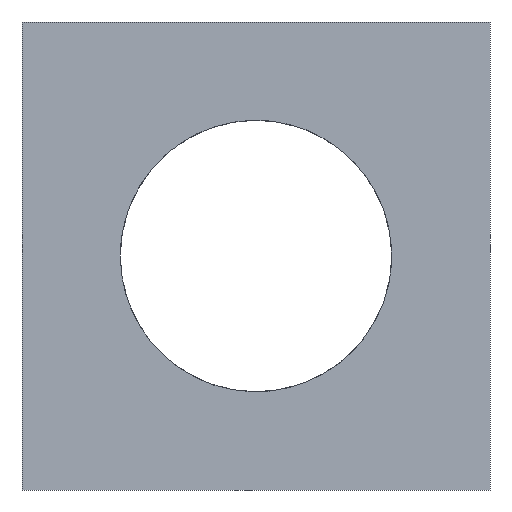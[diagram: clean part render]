
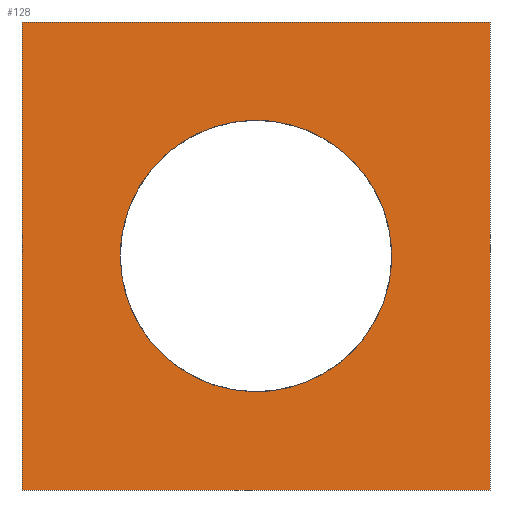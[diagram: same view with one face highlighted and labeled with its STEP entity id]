
A CAD part, front view. The second image highlights one B-rep face of the part: STEP entity #128.
In plain terms, the highlighted planar face has unit normal (0.138, -0.991, 0).
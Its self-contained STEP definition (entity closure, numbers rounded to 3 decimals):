
#18=FACE_BOUND('',#29,.T.);
#20=ELLIPSE('',#156,14.64,14.5);
#21=FACE_OUTER_BOUND('',#28,.T.);
#28=EDGE_LOOP('',(#90,#91,#92,#93));
#29=EDGE_LOOP('',(#94));
#37=LINE('',#204,#50);
#38=LINE('',#206,#51);
#39=LINE('',#208,#52);
#40=LINE('',#209,#53);
#50=VECTOR('',#169,10.);
#51=VECTOR('',#170,10.);
#52=VECTOR('',#171,10.);
#53=VECTOR('',#172,10.);
#63=VERTEX_POINT('',#202);
#64=VERTEX_POINT('',#203);
#65=VERTEX_POINT('',#205);
#66=VERTEX_POINT('',#207);
#67=VERTEX_POINT('',#210);
#74=EDGE_CURVE('',#63,#64,#37,.T.);
#75=EDGE_CURVE('',#65,#63,#38,.T.);
#76=EDGE_CURVE('',#66,#65,#39,.T.);
#77=EDGE_CURVE('',#66,#64,#40,.T.);
#78=EDGE_CURVE('',#67,#67,#20,.T.);
#90=ORIENTED_EDGE('',*,*,#74,.F.);
#91=ORIENTED_EDGE('',*,*,#75,.F.);
#92=ORIENTED_EDGE('',*,*,#76,.F.);
#93=ORIENTED_EDGE('',*,*,#77,.T.);
#94=ORIENTED_EDGE('',*,*,#78,.F.);
#122=PLANE('',#155);
#128=ADVANCED_FACE('',(#21,#18),#122,.F.);
#155=AXIS2_PLACEMENT_3D('',#201,#167,#168);
#156=AXIS2_PLACEMENT_3D('',#211,#173,#174);
#167=DIRECTION('center_axis',(-0.138,0.99,0.));
#168=DIRECTION('ref_axis',(0.99,0.138,0.));
#169=DIRECTION('',(-0.99,-0.138,0.));
#170=DIRECTION('',(0.,0.,-1.));
#171=DIRECTION('',(0.99,0.138,0.));
#172=DIRECTION('',(0.,0.,-1.));
#173=DIRECTION('center_axis',(0.138,-0.99,0.));
#174=DIRECTION('ref_axis',(0.99,0.138,0.));
#201=CARTESIAN_POINT('Origin',(-25.,-9.,25.));
#202=CARTESIAN_POINT('',(25.,-2.041,-25.));
#203=CARTESIAN_POINT('',(-25.,-9.,-25.));
#204=CARTESIAN_POINT('',(-24.386,-8.914,-25.));
#205=CARTESIAN_POINT('',(25.,-2.041,25.));
#206=CARTESIAN_POINT('',(25.,-2.041,0.));
#207=CARTESIAN_POINT('',(-25.,-9.,25.));
#208=CARTESIAN_POINT('',(0.139,-5.501,25.));
#209=CARTESIAN_POINT('',(-25.,-9.,-25.));
#210=CARTESIAN_POINT('',(-14.5,-7.539,0.));
#211=CARTESIAN_POINT('Origin',(0.,-5.521,0.));
